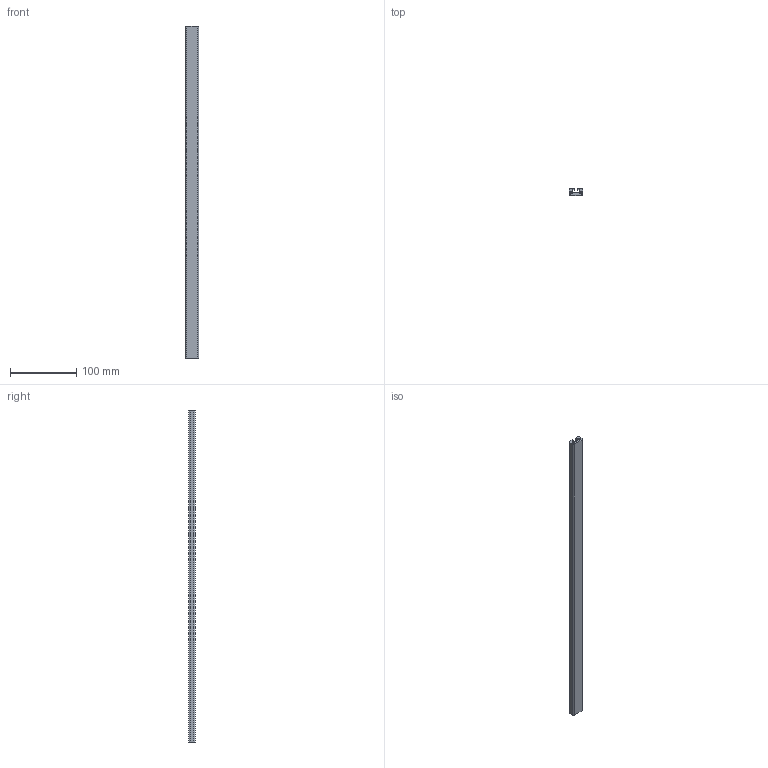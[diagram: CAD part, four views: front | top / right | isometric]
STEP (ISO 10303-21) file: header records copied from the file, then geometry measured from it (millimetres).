
FILE_DESCRIPTION (( 'STEP AP203' ), '1' );
FILE_NAME ('PP4010-500-Rollco.step', '2026-05-05T08:45:21', ( '' ), ( '' ), 'SwSTEP 2.0', 'SolidWorks 2014', '' );
FILE_SCHEMA (( 'CONFIG_CONTROL_DESIGN' ));
Length unit declared in the file: millimetre
Products named in the file (1): PP4010-500-Rollco
Bounding box: 20 x 10 x 500 mm (x, y, z)
Volume: 64956.1 mm3; surface area: 48790.2 mm2
Topology: 1 solids, 1 shells, 31 faces, 87 edges, 58 vertices
Faces by surface type: cylinder 17, plane 14
Entity records: 1100 total; most frequent: DIRECTION 185, CARTESIAN_POINT 177, ORIENTED_EDGE 174, EDGE_CURVE 87, AXIS2_PLACEMENT_3D 66, VERTEX_POINT 58, LINE 53, VECTOR 53
